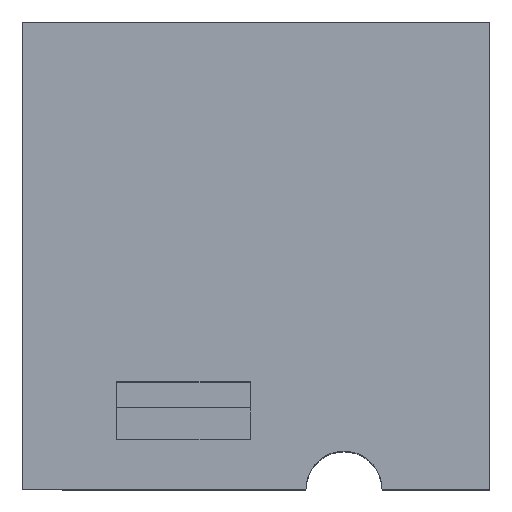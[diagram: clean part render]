
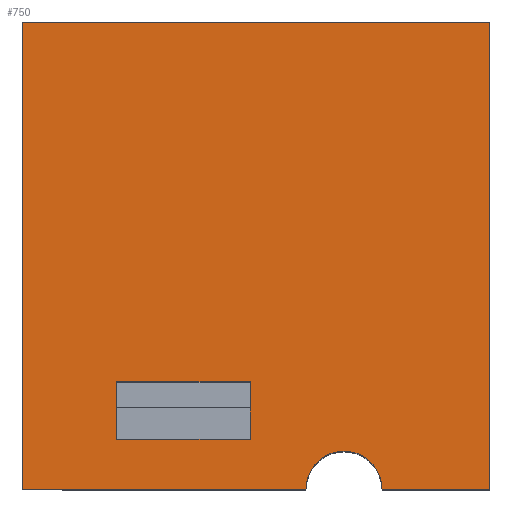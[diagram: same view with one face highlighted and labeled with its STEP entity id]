
A CAD part, top view. The second image highlights one B-rep face of the part: STEP entity #750.
In plain terms, the highlighted planar face has unit normal (0, 0, 1).
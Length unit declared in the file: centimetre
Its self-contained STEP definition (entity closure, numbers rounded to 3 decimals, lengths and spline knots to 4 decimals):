
#2 = CARTESIAN_POINT ( 'NONE',  ( 1000., 1000., 1000. ) ) ;
#17 = ORIENTED_EDGE ( 'NONE', *, *, #272, .F. ) ;
#24 = VECTOR ( 'NONE', #241, 100. ) ;
#42 = ORIENTED_EDGE ( 'NONE', *, *, #128, .T. ) ;
#45 = CARTESIAN_POINT ( 'NONE',  ( 606.9935, 0., 1000. ) ) ;
#51 = DIRECTION ( 'NONE',  ( 1., 0., 0. ) ) ;
#55 = VECTOR ( 'NONE', #99, 100. ) ;
#61 = LINE ( 'NONE', #225, #719 ) ;
#79 = CARTESIAN_POINT ( 'NONE',  ( 0., 1000., 1000. ) ) ;
#99 = DIRECTION ( 'NONE',  ( 0., -1., 0. ) ) ;
#102 = ORIENTED_EDGE ( 'NONE', *, *, #691, .T. ) ;
#114 = LINE ( 'NONE', #367, #979 ) ;
#118 = VERTEX_POINT ( 'NONE', #970 ) ;
#124 = LINE ( 'NONE', #441, #828 ) ;
#128 = EDGE_CURVE ( 'NONE', #437, #591, #114, .T. ) ;
#135 = PLANE ( 'NONE',  #1003 ) ;
#137 = ORIENTED_EDGE ( 'NONE', *, *, #968, .F. ) ;
#141 = VERTEX_POINT ( 'NONE', #360 ) ;
#147 = DIRECTION ( 'NONE',  ( 0., 1., 0. ) ) ;
#156 = LINE ( 'NONE', #79, #24 ) ;
#199 = DIRECTION ( 'NONE',  ( 1., 0., 0. ) ) ;
#204 = DIRECTION ( 'NONE',  ( 0., 0., -1. ) ) ;
#225 = CARTESIAN_POINT ( 'NONE',  ( 487.9068, 106.503, 1000. ) ) ;
#241 = DIRECTION ( 'NONE',  ( 0., -1., 0. ) ) ;
#243 = ORIENTED_EDGE ( 'NONE', *, *, #567, .F. ) ;
#264 = VERTEX_POINT ( 'NONE', #687 ) ;
#272 = EDGE_CURVE ( 'NONE', #632, #896, #61, .T. ) ;
#281 = CARTESIAN_POINT ( 'NONE',  ( 201.2639, 106.503, 1000. ) ) ;
#297 = AXIS2_PLACEMENT_3D ( 'NONE', #542, #204, #697 ) ;
#311 = CARTESIAN_POINT ( 'NONE',  ( 0., 0., 1000. ) ) ;
#315 = CIRCLE ( 'NONE', #297, 81.3711 ) ;
#336 = CARTESIAN_POINT ( 'NONE',  ( 201.2639, 106.503, 1000. ) ) ;
#360 = CARTESIAN_POINT ( 'NONE',  ( 1000., 1000., 1000. ) ) ;
#367 = CARTESIAN_POINT ( 'NONE',  ( 0., 0., 1000. ) ) ;
#388 = CARTESIAN_POINT ( 'NONE',  ( 0., 0., 1000. ) ) ;
#395 = EDGE_CURVE ( 'NONE', #896, #118, #870, .T. ) ;
#401 = VERTEX_POINT ( 'NONE', #855 ) ;
#406 = EDGE_CURVE ( 'NONE', #401, #141, #703, .T. ) ;
#412 = LINE ( 'NONE', #311, #738 ) ;
#437 = VERTEX_POINT ( 'NONE', #1012 ) ;
#441 = CARTESIAN_POINT ( 'NONE',  ( 0., 1000., 1000. ) ) ;
#469 = EDGE_CURVE ( 'NONE', #914, #437, #156, .T. ) ;
#478 = CARTESIAN_POINT ( 'NONE',  ( 201.2639, 106.503, 1000. ) ) ;
#508 = DIRECTION ( 'NONE',  ( 1., 0., 0. ) ) ;
#527 = VECTOR ( 'NONE', #508, 100. ) ;
#537 = DIRECTION ( 'NONE',  ( -1., 0., 0. ) ) ;
#542 = CARTESIAN_POINT ( 'NONE',  ( 688.3646, 0., 1000. ) ) ;
#567 = EDGE_CURVE ( 'NONE', #888, #632, #597, .T. ) ;
#583 = EDGE_CURVE ( 'NONE', #141, #914, #124, .T. ) ;
#591 = VERTEX_POINT ( 'NONE', #45 ) ;
#597 = LINE ( 'NONE', #281, #527 ) ;
#606 = FACE_BOUND ( 'NONE', #737, .T. ) ;
#625 = DIRECTION ( 'NONE',  ( 1., 0., 0. ) ) ;
#632 = VERTEX_POINT ( 'NONE', #905 ) ;
#634 = CARTESIAN_POINT ( 'NONE',  ( 0., 1000., 1000. ) ) ;
#635 = CARTESIAN_POINT ( 'NONE',  ( 201.2639, 230.4441, 1000. ) ) ;
#677 = ORIENTED_EDGE ( 'NONE', *, *, #406, .T. ) ;
#682 = VECTOR ( 'NONE', #147, 100. ) ;
#687 = CARTESIAN_POINT ( 'NONE',  ( 769.7358, 0., 1000. ) ) ;
#691 = EDGE_CURVE ( 'NONE', #591, #264, #315, .T. ) ;
#697 = DIRECTION ( 'NONE',  ( -1., 0., 0. ) ) ;
#703 = LINE ( 'NONE', #2, #682 ) ;
#715 = CARTESIAN_POINT ( 'NONE',  ( 487.9068, 230.4441, 1000. ) ) ;
#719 = VECTOR ( 'NONE', #858, 100. ) ;
#737 = EDGE_LOOP ( 'NONE', ( #137, #942, #17, #243 ) ) ;
#738 = VECTOR ( 'NONE', #625, 100. ) ;
#750 = ADVANCED_FACE ( 'NONE', ( #606, #917 ), #135, .T. ) ;
#756 = DIRECTION ( 'NONE',  ( -1., 0., 0. ) ) ;
#765 = DIRECTION ( 'NONE',  ( 0., 0., 1. ) ) ;
#828 = VECTOR ( 'NONE', #756, 100. ) ;
#855 = CARTESIAN_POINT ( 'NONE',  ( 1000., 0., 1000. ) ) ;
#858 = DIRECTION ( 'NONE',  ( 0., 1., 0. ) ) ;
#870 = LINE ( 'NONE', #635, #980 ) ;
#873 = ORIENTED_EDGE ( 'NONE', *, *, #933, .T. ) ;
#888 = VERTEX_POINT ( 'NONE', #478 ) ;
#890 = ORIENTED_EDGE ( 'NONE', *, *, #583, .T. ) ;
#896 = VERTEX_POINT ( 'NONE', #715 ) ;
#897 = LINE ( 'NONE', #336, #55 ) ;
#903 = EDGE_LOOP ( 'NONE', ( #102, #873, #677, #890, #946, #42 ) ) ;
#905 = CARTESIAN_POINT ( 'NONE',  ( 487.9068, 106.503, 1000. ) ) ;
#914 = VERTEX_POINT ( 'NONE', #634 ) ;
#917 = FACE_OUTER_BOUND ( 'NONE', #903, .T. ) ;
#933 = EDGE_CURVE ( 'NONE', #264, #401, #412, .T. ) ;
#942 = ORIENTED_EDGE ( 'NONE', *, *, #395, .F. ) ;
#946 = ORIENTED_EDGE ( 'NONE', *, *, #469, .T. ) ;
#968 = EDGE_CURVE ( 'NONE', #118, #888, #897, .T. ) ;
#970 = CARTESIAN_POINT ( 'NONE',  ( 201.2639, 230.4441, 1000. ) ) ;
#979 = VECTOR ( 'NONE', #199, 100. ) ;
#980 = VECTOR ( 'NONE', #537, 100. ) ;
#1003 = AXIS2_PLACEMENT_3D ( 'NONE', #388, #765, #51 ) ;
#1012 = CARTESIAN_POINT ( 'NONE',  ( 0., 0., 1000. ) ) ;
